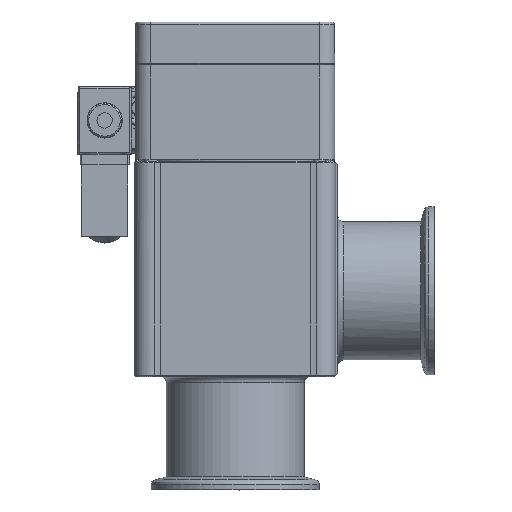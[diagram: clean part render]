
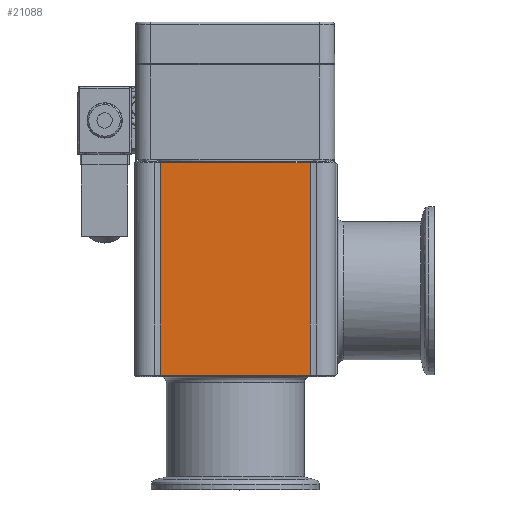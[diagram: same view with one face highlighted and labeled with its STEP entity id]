
A CAD part, top view. The second image highlights one B-rep face of the part: STEP entity #21088.
In plain terms, the highlighted free-form (B-spline) face has degree [1, 1] with [2, 2] control points.
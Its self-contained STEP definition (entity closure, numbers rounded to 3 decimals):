
#20812=CARTESIAN_POINT('V97',(-24.485,
   103.8,32.5));
#20813=VERTEX_POINT('V97',#20812);
#20856=CARTESIAN_POINT('V96',(24.485,103.8,
   32.5));
#20857=VERTEX_POINT('V96',#20856);
#20863=CARTESIAN_POINT('E128',(24.485,
   103.8,32.5));
#20864=CARTESIAN_POINT('E128',(-24.485,
   103.8,32.5));
#20865=B_SPLINE_CURVE_WITH_KNOTS('E128',1,(#20863,#20864),
   .POLYLINE_FORM.,.F.,.U.,(2,2),(2.0,88.568),
   .UNSPECIFIED.);
#20866=EDGE_CURVE('E128',#20857,#20813,#20865,.T.);
#21042=CARTESIAN_POINT('V95',(24.485,34.4,
   32.5));
#21043=VERTEX_POINT('V95',#21042);
#21057=CARTESIAN_POINT('E127',(24.485,34.4,
   32.5));
#21058=CARTESIAN_POINT('E127',(24.485,
   103.8,32.5));
#21059=B_SPLINE_CURVE_WITH_KNOTS('E127',1,(#21057,#21058),
   .POLYLINE_FORM.,.F.,.U.,(2,2),(2.202,
   37.19),.UNSPECIFIED.);
#21060=EDGE_CURVE('E127',#21043,#20857,#21059,.T.);
#21067=CARTESIAN_POINT('F42',(-25.742,33.,
   32.5));
#21068=CARTESIAN_POINT('F42',(25.742,33.,
   32.5));
#21069=CARTESIAN_POINT('F42',(-25.742,
   107.7,32.5));
#21070=CARTESIAN_POINT('F42',(25.742,107.7,
   32.5));
#21071=B_SPLINE_SURFACE_WITH_KNOTS('F42',1,1,((#21067,#21069),(
   #21068,#21070)),.PLANE_SURF.,.F.,.F.,.U.,(2,2),(2,2),(0.0,1.0),
   (0.699,2.15),.UNSPECIFIED.);
#21072=CARTESIAN_POINT('V94',(-24.485,34.4,
   32.5));
#21073=VERTEX_POINT('V94',#21072);
#21074=CARTESIAN_POINT('E126',(-24.485,
   34.4,32.5));
#21075=CARTESIAN_POINT('E126',(24.485,34.4,
   32.5));
#21076=B_SPLINE_CURVE_WITH_KNOTS('E126',1,(#21074,#21075),
   .POLYLINE_FORM.,.F.,.U.,(2,2),(2.0,88.568),
   .UNSPECIFIED.);
#21077=EDGE_CURVE('E126',#21073,#21043,#21076,.T.);
#21078=ORIENTED_EDGE('E126',*,*,#21077,.F.);
#21079=CARTESIAN_POINT('E129',(-24.485,
   103.8,32.5));
#21080=CARTESIAN_POINT('E129',(-24.485,
   34.4,32.5));
#21081=B_SPLINE_CURVE_WITH_KNOTS('E129',1,(#21079,#21080),
   .POLYLINE_FORM.,.F.,.U.,(2,2),(2.202,
   37.19),.UNSPECIFIED.);
#21082=EDGE_CURVE('E129',#20813,#21073,#21081,.T.);
#21083=ORIENTED_EDGE('E129',*,*,#21082,.F.);
#21084=ORIENTED_EDGE('E128',*,*,#20866,.F.);
#21085=ORIENTED_EDGE('E127',*,*,#21060,.F.);
#21086=EDGE_LOOP('F42',(#21078,#21083,#21084,#21085));
#21087=FACE_OUTER_BOUND('F42',#21086,.F.);
#21088=ADVANCED_FACE('F42',(#21087),#21071,.T.);
